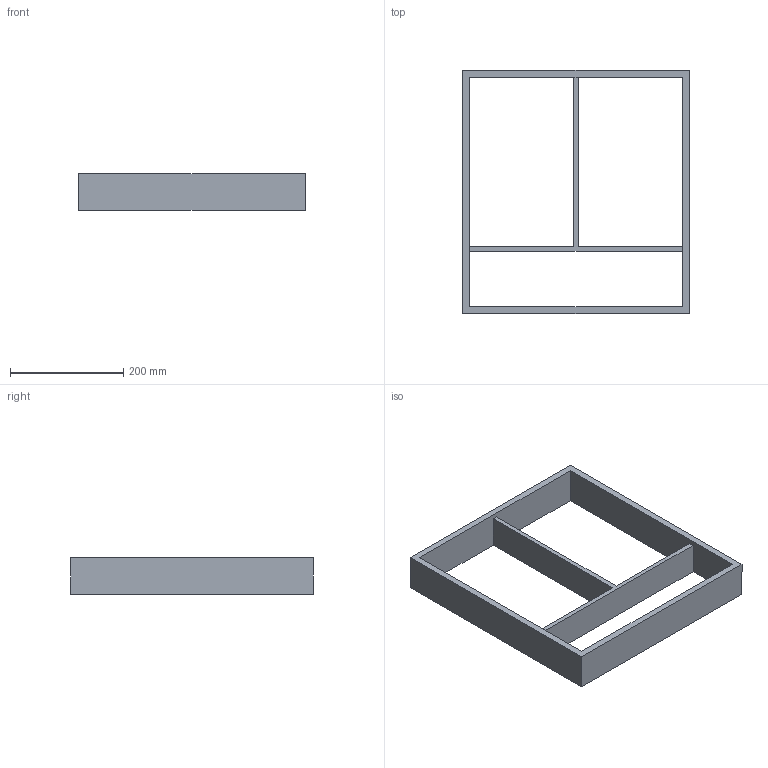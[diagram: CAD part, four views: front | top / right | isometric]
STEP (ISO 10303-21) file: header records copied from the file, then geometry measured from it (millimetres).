
FILE_DESCRIPTION (( 'STEP AP214' ), '1' );
FILE_NAME ('Vario Multi NL450_ZE400_16 mm_Alu.step', '2010-10-07T06:24:34', ( 'grass' ), ( '' ), 'SwSTEP 2.0', 'SolidWorks 2010', '' );
FILE_SCHEMA (( 'AUTOMOTIVE_DESIGN' ));
Length unit declared in the file: millimetre
Products named in the file (1): Vario Multi NL450_ZE400_16 mm_Alu
Bounding box: 400 x 429 x 65 mm (x, y, z)
Volume: 1563508.8 mm3; surface area: 333840 mm2
Topology: 1 solids, 1 shells, 16 faces, 48 edges, 32 vertices
Faces by surface type: plane 16
Entity records: 578 total; most frequent: CARTESIAN_POINT 97, ORIENTED_EDGE 96, DIRECTION 82, EDGE_CURVE 48, VECTOR 48, LINE 48, VERTEX_POINT 32, EDGE_LOOP 20
